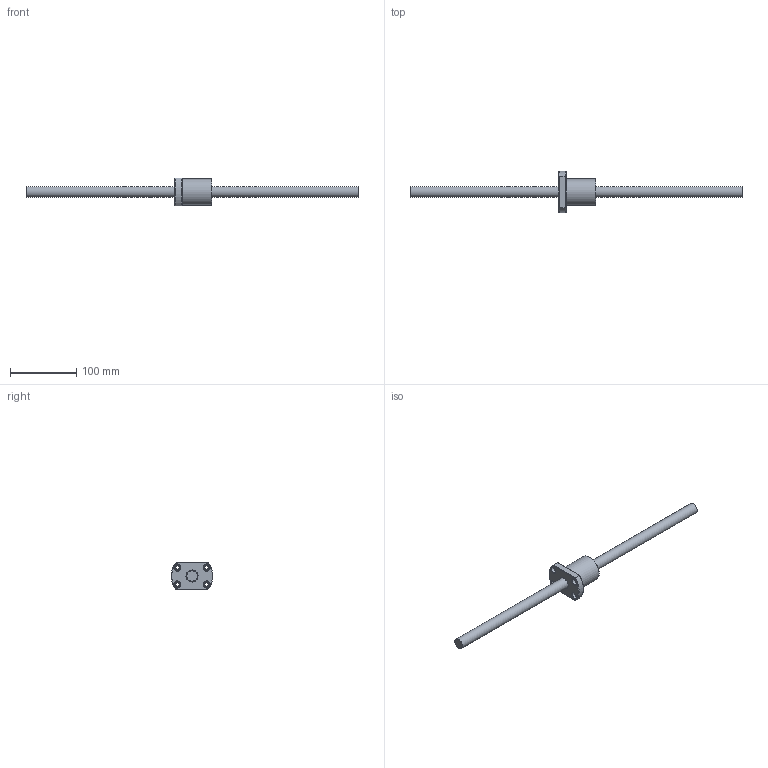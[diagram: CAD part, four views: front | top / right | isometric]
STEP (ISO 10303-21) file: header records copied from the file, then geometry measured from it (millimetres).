
FILE_DESCRIPTION (( 'STEP AP203' ), '1' );
FILE_NAME ('SFV01610D-2.7.step', '2024-05-20T03:37:25', ( '' ), ( '' ), 'SwSTEP 2.0', 'SolidWorks 2022', '' );
FILE_SCHEMA (( 'CONFIG_CONTROL_DESIGN' ));
Length unit declared in the file: millimetre
Products named in the file (1): SFV01610D-2.7
Bounding box: 500 x 62.9 x 42 mm (x, y, z)
Volume: 166627.8 mm3; surface area: 41686.8 mm2
Topology: 2 solids, 2 shells, 56 faces, 146 edges, 95 vertices
Faces by surface type: cylinder 21, plane 16, cone 9, torus 5, bspline 5
Full cylindrical faces by diameter (mm): 4 x1, 5 x6, 5.5 x4, 9.5 x4, 16 x1, 18.2 x1, 40 x1
Entity records: 3236 total; most frequent: CARTESIAN_POINT 2150, DIRECTION 198, ORIENTED_EDGE 182, EDGE_CURVE 91, AXIS2_PLACEMENT_3D 91, EDGE_LOOP 86, VERTEX_POINT 71, FACE_OUTER_BOUND 64
